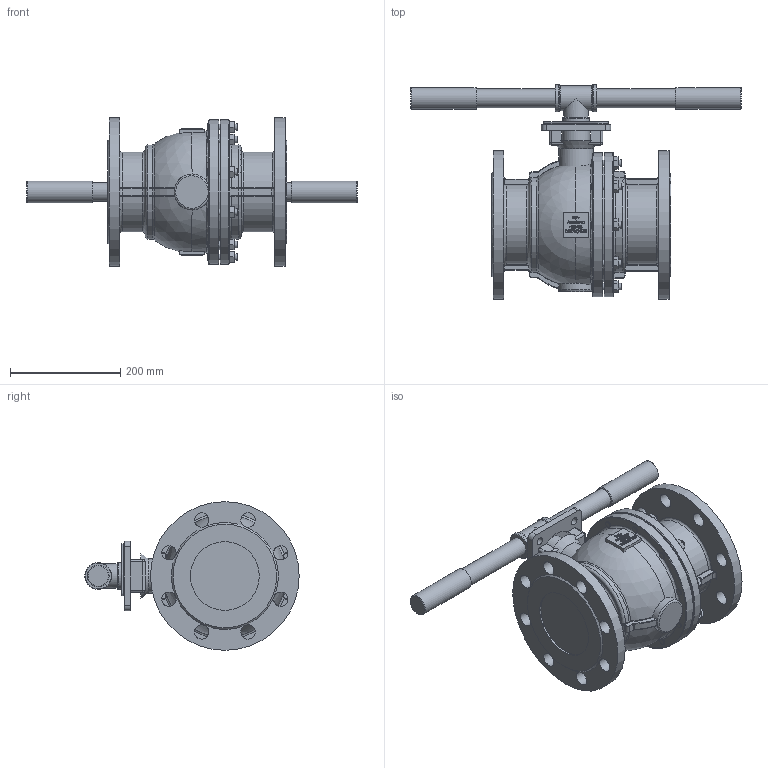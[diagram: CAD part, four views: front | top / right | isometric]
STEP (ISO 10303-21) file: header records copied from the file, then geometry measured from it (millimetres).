
FILE_DESCRIPTION((''),'2;1');
FILE_NAME('K:\Inventor\1 Artikel\12) Flanschen-Kugelhähne\12a) manuell\Econosto\465-GS, PN40, 7249\465-GS, DN125\465-GS, DN125, 3D\465-GS, DN125, PN40, HH, 3D.stp','2019-11-25T15:21:04',('claudia'),(''),'Autodesk Inventor 2013','Autodesk Inventor 2013','');
FILE_SCHEMA(('AUTOMOTIVE_DESIGN { 1 0 10303 214 1 1 1 1 }'));
Length unit declared in the file: millimetre
Products named in the file (1): Bauteil12
Bounding box: 600 x 389.35 x 270 mm (x, y, z)
Volume: 11491685.4 mm3; surface area: 674336.6 mm2
Topology: 1 solids, 1 shells, 1918 faces, 5205 edges, 3397 vertices
Faces by surface type: plane 882, bspline 680, cylinder 232, torus 75, cone 43, sphere 6
Full cylindrical faces by diameter (mm): 12 x20, 12.5 x10, 13 x1, 14 x4, 26 x16, 34 x2, 39 x2, 45 x2, 49 x3, 50 x1, 62 x1, 80 x1, 125 x2, 209.349 x1, 262 x2, 270 x2
Entity records: 122316 total; most frequent: CARTESIAN_POINT 79853, ORIENTED_EDGE 9828, DIRECTION 6323, EDGE_CURVE 4914, VERTEX_POINT 3284, VECTOR 2549, LINE 2549, EDGE_LOOP 2254
